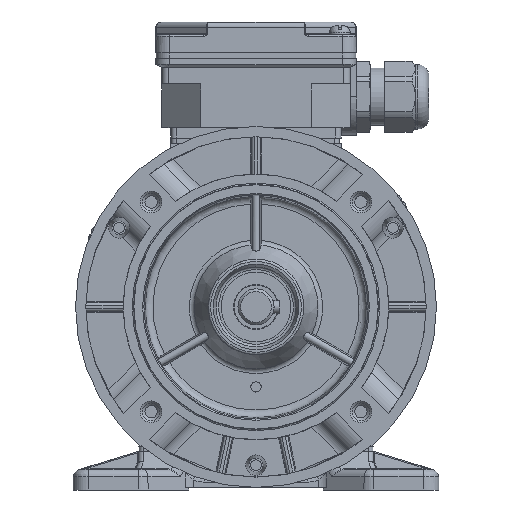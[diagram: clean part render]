
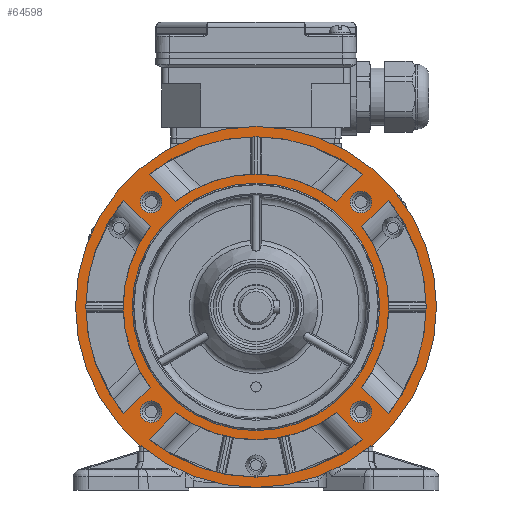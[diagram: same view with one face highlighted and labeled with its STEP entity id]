
A CAD part, front view. The second image highlights one B-rep face of the part: STEP entity #64598.
In plain terms, the highlighted planar face has unit normal (0, -1, 0).
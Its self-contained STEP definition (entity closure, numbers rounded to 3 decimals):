
#2172=LINE('',#96909,#5165);
#2173=LINE('',#96919,#5166);
#2174=LINE('',#96935,#5167);
#2175=LINE('',#96951,#5168);
#2176=LINE('',#96973,#5169);
#2177=LINE('',#96983,#5170);
#2178=LINE('',#96991,#5171);
#2179=LINE('',#97013,#5172);
#5165=VECTOR('',#76489,1000.);
#5166=VECTOR('',#76496,1000.);
#5167=VECTOR('',#76503,1000.);
#5168=VECTOR('',#76510,1000.);
#5169=VECTOR('',#76517,1000.);
#5170=VECTOR('',#76524,1000.);
#5171=VECTOR('',#76527,1000.);
#5172=VECTOR('',#76534,1000.);
#18337=ORIENTED_EDGE('',*,*,#27253,.T.);
#18338=ORIENTED_EDGE('',*,*,#27252,.T.);
#18339=ORIENTED_EDGE('',*,*,#27251,.T.);
#18340=ORIENTED_EDGE('',*,*,#27250,.T.);
#18341=ORIENTED_EDGE('',*,*,#27249,.F.);
#18342=ORIENTED_EDGE('',*,*,#27248,.F.);
#18343=ORIENTED_EDGE('',*,*,#27245,.T.);
#18344=ORIENTED_EDGE('',*,*,#27243,.T.);
#18345=ORIENTED_EDGE('',*,*,#27241,.T.);
#18346=ORIENTED_EDGE('',*,*,#27239,.F.);
#18347=ORIENTED_EDGE('',*,*,#27238,.F.);
#18348=ORIENTED_EDGE('',*,*,#27235,.T.);
#18349=ORIENTED_EDGE('',*,*,#27233,.T.);
#18350=ORIENTED_EDGE('',*,*,#27231,.F.);
#18351=ORIENTED_EDGE('',*,*,#27229,.F.);
#18352=ORIENTED_EDGE('',*,*,#27227,.T.);
#18353=ORIENTED_EDGE('',*,*,#27225,.T.);
#18354=ORIENTED_EDGE('',*,*,#27223,.F.);
#18355=ORIENTED_EDGE('',*,*,#27222,.F.);
#18356=ORIENTED_EDGE('',*,*,#27219,.T.);
#18357=ORIENTED_EDGE('',*,*,#28240,.T.);
#18358=ORIENTED_EDGE('',*,*,#27217,.T.);
#27217=EDGE_CURVE('',#33185,#33185,#36160,.T.);
#27219=EDGE_CURVE('',#33187,#33186,#36161,.T.);
#27222=EDGE_CURVE('',#33187,#33188,#2172,.T.);
#27223=EDGE_CURVE('',#33188,#33189,#36162,.T.);
#27225=EDGE_CURVE('',#33186,#33189,#2173,.T.);
#27227=EDGE_CURVE('',#33191,#33190,#36163,.T.);
#27229=EDGE_CURVE('',#33191,#33192,#2174,.T.);
#27231=EDGE_CURVE('',#33192,#33193,#36164,.T.);
#27233=EDGE_CURVE('',#33190,#33193,#2175,.T.);
#27235=EDGE_CURVE('',#33195,#33194,#36165,.T.);
#27238=EDGE_CURVE('',#33195,#33196,#2176,.T.);
#27239=EDGE_CURVE('',#33196,#33197,#36166,.T.);
#27241=EDGE_CURVE('',#33194,#33197,#2177,.T.);
#27243=EDGE_CURVE('',#33199,#33198,#2178,.T.);
#27245=EDGE_CURVE('',#33200,#33199,#36167,.T.);
#27248=EDGE_CURVE('',#33200,#33201,#2179,.T.);
#27249=EDGE_CURVE('',#33201,#33198,#36168,.T.);
#27250=EDGE_CURVE('',#33202,#33202,#36169,.F.);
#27251=EDGE_CURVE('',#33203,#33203,#36170,.F.);
#27252=EDGE_CURVE('',#33204,#33204,#36171,.F.);
#27253=EDGE_CURVE('',#33205,#33205,#36172,.F.);
#28240=EDGE_CURVE('',#33704,#33704,#36423,.F.);
#33185=VERTEX_POINT('',#96887);
#33186=VERTEX_POINT('',#96894);
#33187=VERTEX_POINT('',#96896);
#33188=VERTEX_POINT('',#96908);
#33189=VERTEX_POINT('',#96912);
#33190=VERTEX_POINT('',#96926);
#33191=VERTEX_POINT('',#96928);
#33192=VERTEX_POINT('',#96936);
#33193=VERTEX_POINT('',#96944);
#33194=VERTEX_POINT('',#96958);
#33195=VERTEX_POINT('',#96960);
#33196=VERTEX_POINT('',#96972);
#33197=VERTEX_POINT('',#96976);
#33198=VERTEX_POINT('',#96990);
#33199=VERTEX_POINT('',#96992);
#33200=VERTEX_POINT('',#97000);
#33201=VERTEX_POINT('',#97012);
#33202=VERTEX_POINT('',#97018);
#33203=VERTEX_POINT('',#97021);
#33204=VERTEX_POINT('',#97024);
#33205=VERTEX_POINT('',#97027);
#33704=VERTEX_POINT('',#99012);
#36160=CIRCLE('',#67866,69.993);
#36161=CIRCLE('',#67868,51.495);
#36162=CIRCLE('',#67871,65.993);
#36163=CIRCLE('',#67874,51.495);
#36164=CIRCLE('',#67877,65.993);
#36165=CIRCLE('',#67880,51.495);
#36166=CIRCLE('',#67883,65.993);
#36167=CIRCLE('',#67887,51.495);
#36168=CIRCLE('',#67890,65.993);
#36169=CIRCLE('',#67892,4.2);
#36170=CIRCLE('',#67894,4.2);
#36171=CIRCLE('',#67896,4.2);
#36172=CIRCLE('',#67898,4.2);
#36423=CIRCLE('',#68648,47.995);
#39148=EDGE_LOOP('',(#18337));
#39149=EDGE_LOOP('',(#18338));
#39150=EDGE_LOOP('',(#18339));
#39151=EDGE_LOOP('',(#18340));
#39152=EDGE_LOOP('',(#18341,#18342,#18343,#18344));
#39153=EDGE_LOOP('',(#18345,#18346,#18347,#18348));
#39154=EDGE_LOOP('',(#18349,#18350,#18351,#18352));
#39155=EDGE_LOOP('',(#18353,#18354,#18355,#18356));
#39156=EDGE_LOOP('',(#18357));
#39157=EDGE_LOOP('',(#18358));
#42226=FACE_BOUND('',#39148,.T.);
#42227=FACE_BOUND('',#39149,.T.);
#42228=FACE_BOUND('',#39150,.T.);
#42229=FACE_BOUND('',#39151,.T.);
#42230=FACE_BOUND('',#39152,.T.);
#42231=FACE_BOUND('',#39153,.T.);
#42232=FACE_BOUND('',#39154,.T.);
#42233=FACE_BOUND('',#39155,.T.);
#42234=FACE_BOUND('',#39156,.T.);
#42235=FACE_BOUND('',#39157,.T.);
#44228=PLANE('',#68647);
#64598=ADVANCED_FACE('',(#42226,#42227,#42228,#42229,#42230,#42231,#42232,
#42233,#42234,#42235),#44228,.T.);
#67866=AXIS2_PLACEMENT_3D('',#96886,#76481,#76482);
#67868=AXIS2_PLACEMENT_3D('',#96895,#76485,#76486);
#67871=AXIS2_PLACEMENT_3D('',#96911,#76492,#76493);
#67874=AXIS2_PLACEMENT_3D('',#96927,#76499,#76500);
#67877=AXIS2_PLACEMENT_3D('',#96943,#76506,#76507);
#67880=AXIS2_PLACEMENT_3D('',#96959,#76513,#76514);
#67883=AXIS2_PLACEMENT_3D('',#96975,#76520,#76521);
#67887=AXIS2_PLACEMENT_3D('',#96999,#76530,#76531);
#67890=AXIS2_PLACEMENT_3D('',#97015,#76537,#76538);
#67892=AXIS2_PLACEMENT_3D('',#97017,#76541,#76542);
#67894=AXIS2_PLACEMENT_3D('',#97020,#76545,#76546);
#67896=AXIS2_PLACEMENT_3D('',#97023,#76549,#76550);
#67898=AXIS2_PLACEMENT_3D('',#97026,#76553,#76554);
#68647=AXIS2_PLACEMENT_3D('',#99010,#78787,#78788);
#68648=AXIS2_PLACEMENT_3D('',#99011,#78789,#78790);
#76481=DIRECTION('',(0.,-1.,0.));
#76482=DIRECTION('',(0.,0.,1.));
#76485=DIRECTION('',(0.,-1.,0.));
#76486=DIRECTION('',(0.,0.,1.));
#76489=DIRECTION('',(0.707,0.,0.707));
#76492=DIRECTION('',(0.,-1.,0.));
#76493=DIRECTION('',(0.,0.,1.));
#76496=DIRECTION('',(-0.707,0.,0.707));
#76499=DIRECTION('',(0.,-1.,0.));
#76500=DIRECTION('',(0.,0.,1.));
#76503=DIRECTION('',(-0.707,0.,0.707));
#76506=DIRECTION('',(0.,-1.,0.));
#76507=DIRECTION('',(0.,0.,1.));
#76510=DIRECTION('',(-0.707,0.,-0.707));
#76513=DIRECTION('',(0.,-1.,0.));
#76514=DIRECTION('',(0.,0.,1.));
#76517=DIRECTION('',(-0.707,0.,-0.707));
#76520=DIRECTION('',(0.,-1.,0.));
#76521=DIRECTION('',(0.,0.,1.));
#76524=DIRECTION('',(0.707,0.,-0.707));
#76527=DIRECTION('',(0.707,0.,0.707));
#76530=DIRECTION('',(0.,-1.,0.));
#76531=DIRECTION('',(0.,0.,1.));
#76534=DIRECTION('',(0.707,0.,-0.707));
#76537=DIRECTION('',(0.,-1.,0.));
#76538=DIRECTION('',(0.,0.,1.));
#76541=DIRECTION('',(0.,-1.,0.));
#76542=DIRECTION('',(0.,0.,1.));
#76545=DIRECTION('',(0.,-1.,0.));
#76546=DIRECTION('',(0.,0.,1.));
#76549=DIRECTION('',(0.,-1.,0.));
#76550=DIRECTION('',(0.,0.,1.));
#76553=DIRECTION('',(0.,-1.,0.));
#76554=DIRECTION('',(0.,0.,1.));
#78787=DIRECTION('',(0.,-1.,0.));
#78788=DIRECTION('',(0.,0.,1.));
#78789=DIRECTION('',(0.,-1.,0.));
#78790=DIRECTION('',(0.,0.,1.));
#96886=CARTESIAN_POINT('',(0.,-40.492,0.));
#96887=CARTESIAN_POINT('',(0.,-40.492,69.993));
#96894=CARTESIAN_POINT('',(-31.125,-40.492,41.024));
#96895=CARTESIAN_POINT('',(0.,-40.492,0.));
#96896=CARTESIAN_POINT('',(31.125,-40.492,41.024));
#96908=CARTESIAN_POINT('',(41.452,-40.492,51.351));
#96909=CARTESIAN_POINT('',(29.214,-40.492,39.112));
#96911=CARTESIAN_POINT('',(0.,-40.492,0.));
#96912=CARTESIAN_POINT('',(-41.452,-40.492,51.351));
#96919=CARTESIAN_POINT('',(-29.214,-40.492,39.112));
#96926=CARTESIAN_POINT('',(-41.024,-40.492,-31.125));
#96927=CARTESIAN_POINT('',(0.,-40.492,0.));
#96928=CARTESIAN_POINT('',(-41.024,-40.492,31.125));
#96935=CARTESIAN_POINT('',(-39.112,-40.492,29.214));
#96936=CARTESIAN_POINT('',(-51.35,-40.492,41.452));
#96943=CARTESIAN_POINT('',(0.,-40.492,0.));
#96944=CARTESIAN_POINT('',(-51.35,-40.492,-41.452));
#96951=CARTESIAN_POINT('',(-39.112,-40.492,-29.214));
#96958=CARTESIAN_POINT('',(31.125,-40.492,-41.024));
#96959=CARTESIAN_POINT('',(0.,-40.492,0.));
#96960=CARTESIAN_POINT('',(-31.125,-40.492,-41.024));
#96972=CARTESIAN_POINT('',(-41.452,-40.492,-51.35));
#96973=CARTESIAN_POINT('',(-29.214,-40.492,-39.112));
#96975=CARTESIAN_POINT('',(0.,-40.492,0.));
#96976=CARTESIAN_POINT('',(41.452,-40.492,-51.35));
#96983=CARTESIAN_POINT('',(29.214,-40.492,-39.112));
#96990=CARTESIAN_POINT('',(51.351,-40.492,41.452));
#96991=CARTESIAN_POINT('',(39.112,-40.492,29.214));
#96992=CARTESIAN_POINT('',(41.024,-40.492,31.125));
#96999=CARTESIAN_POINT('',(0.,-40.492,0.));
#97000=CARTESIAN_POINT('',(41.024,-40.492,-31.125));
#97012=CARTESIAN_POINT('',(51.351,-40.492,-41.452));
#97013=CARTESIAN_POINT('',(39.112,-40.492,-29.214));
#97015=CARTESIAN_POINT('',(0.,-40.492,0.));
#97017=CARTESIAN_POINT('',(-40.654,-40.492,40.655));
#97018=CARTESIAN_POINT('',(-40.654,-40.492,44.854));
#97020=CARTESIAN_POINT('',(40.655,-40.492,40.655));
#97021=CARTESIAN_POINT('',(40.655,-40.492,44.854));
#97023=CARTESIAN_POINT('',(40.655,-40.492,-40.654));
#97024=CARTESIAN_POINT('',(40.655,-40.492,-36.455));
#97026=CARTESIAN_POINT('',(-40.654,-40.492,-40.654));
#97027=CARTESIAN_POINT('',(-40.654,-40.492,-36.455));
#99010=CARTESIAN_POINT('',(0.,-40.492,47.495));
#99011=CARTESIAN_POINT('',(0.,-40.492,0.));
#99012=CARTESIAN_POINT('',(0.,-40.492,47.995));
